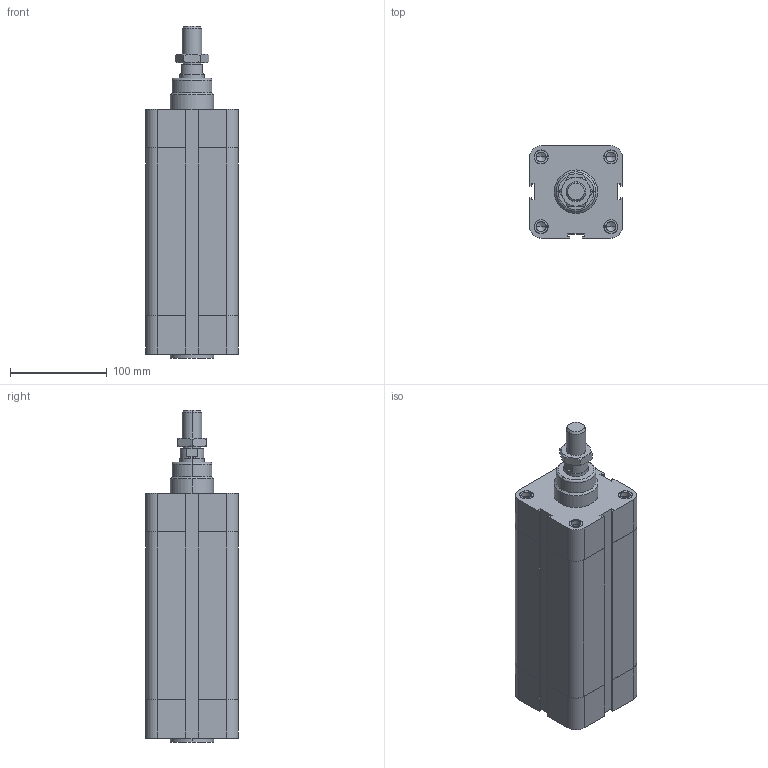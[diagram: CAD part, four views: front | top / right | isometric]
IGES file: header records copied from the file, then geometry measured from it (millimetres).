
Global section: file name: No Iges File Name specified; native system: AutoDesk Inventor R6.1; preprocessor: AutoDesk Inventor Iges Exporter R6.1; author: No Author specified; organization: No Organization specified; date: 20040107.171152; units: millimetre
Bounding box: 95.5 x 95.5 x 343 mm (x, y, z)
Volume: 2273686.4 mm3; surface area: 169183 mm2
Topology: 3 solids, 3 shells, 244 faces, 570 edges, 356 vertices
Faces by surface type: plane 83, bspline 67, cylinder 34, revolution 34, cone 24, torus 2
